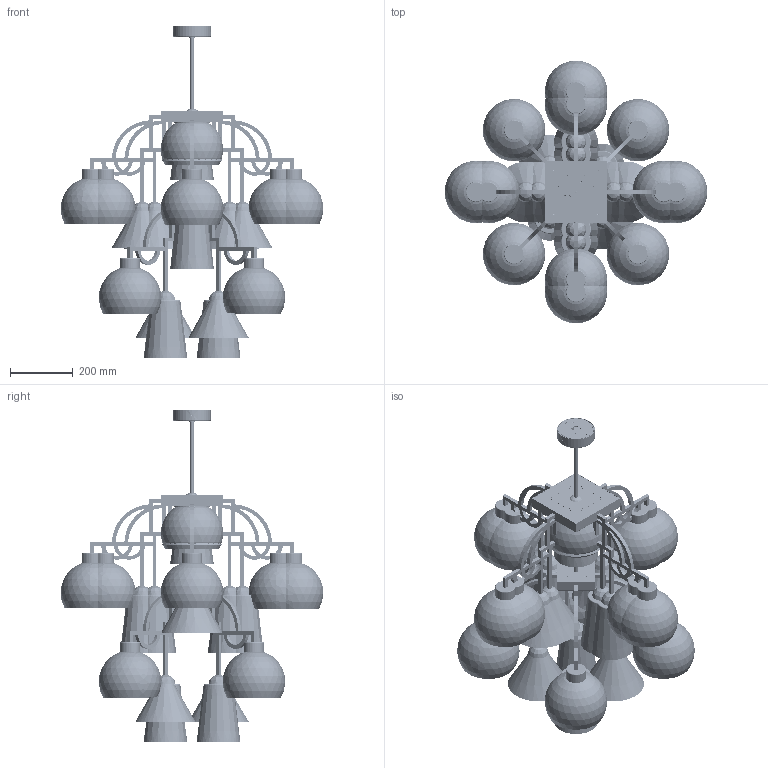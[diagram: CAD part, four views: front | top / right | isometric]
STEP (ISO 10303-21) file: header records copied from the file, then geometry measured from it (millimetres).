
FILE_DESCRIPTION( ( 'Unknown' ), '1' );
FILE_NAME( '//MMS001/Pubblica/PROGETTI MM LAMPADARI/7415 MYA/3D/7415LAMPADARIODOPPIO.stp', 'Unknown', ( 'Unknown' ), ( 'Unknown' ), 'XStep 1.0', 'Unknown', ' ' );
FILE_SCHEMA( ( 'automotive_design' ) );
Length unit declared in the file: millimetre
Products named in the file (32): Assem1; Assem2; Assem3; Assem4; Assem5; 400231108 CAPPELLOTTO E14 BIANCO; 400233113 CAMICIA E14 BIANCA FILETTATA; 400230076 LAMPADINA E14 5,7W PARATHOM OSRAM; 7415C001 BRACCIO; 400103564 SCATOLA FE D 64x33 15-10; 400109001 RONDELLA DENTATA M10; 400108502 DADO M10x1; 7415C009 ALLUNGA 250MM; 7415C027 CONO VETRO VETRARTI; 7415C015 CUPOLA; 7415C028 CONO VETRO VETRARTI V627-B; 400104015 TUBETTO FILETTATO D9,5 L=15; 400105437 RAC.FE ES.17X21 M10X1 FTR.10,2 ZIN; 400104025 TUBETTO FILETTATO D9,5 L=25; 400110547 PASSACAVO PVC NERO D.18,5X8 MM; 400115570 12 SFERA FE D 65 1510 F.10,5 SSC; 7415C038 SCATOLA RACCORDO BRACCI GRANDE; 7415C039 STAFFA APPENDIMENTO GRANDE; 7415C040 TAPPO CHIUSURA SCATOLA GRANDE; 400125059 STAFFA A SOFFITTO; 400125058 ROSONE CIRCOLARE; 400125061 OMEGA SU STAFFA; 7415C070 GHIERA; 7415C002 SCATOLA RACCORDO BRACCI; 400104020 TUBETTO FILETTATO D9,5 L=20; 7415C008 TAPPO CHIUSURA SCATOLA; 7415C034 STAFFA APPENDIMENTO
Bounding box: 839.74 x 839.72 x 1060.75 mm (x, y, z)
Volume: 12317515.4 mm3; surface area: 9592978.1 mm2
Topology: 396 solids, 396 shells, 16684 faces, 44376 edges, 28789 vertices
Faces by surface type: plane 10675, cylinder 3107, cone 1239, torus 945, bspline 666, sphere 52
Full cylindrical faces by diameter (mm): 1.567 x35, 2 x35, 3 x38, 3.242 x30, 4 x15, 4.5 x6, 5 x24, 5.5 x6, 6 x6, 8 x60, 8.917 x174, 10 x55, 10.25 x133, 10.5 x34, 11 x24, 12 x8, 13.044 x108, 14 x53, 15 x3, 16 x35, 16.211 x18, 18 x6, 18.985 x18, 20 x35, 22.5 x175, 25 x6, 28 x52, 31 x17, 44 x9, 46 x9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
Entity records: 29486 total; most frequent: CARTESIAN_POINT 8762, DIRECTION 4371, ORIENTED_EDGE 3710, EDGE_CURVE 1855, AXIS2_PLACEMENT_3D 1688, VERTEX_POINT 1301, EDGE_LOOP 1222, FACE_OUTER_BOUND 997
